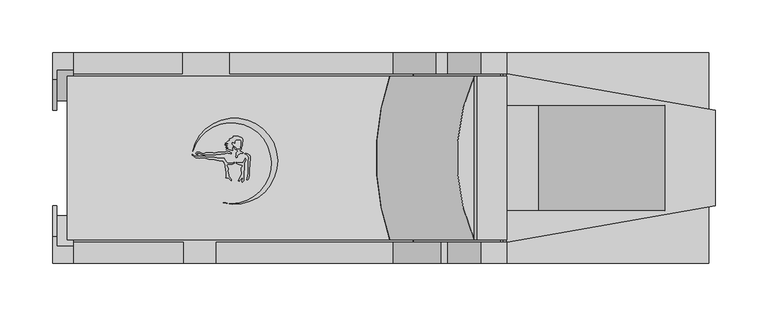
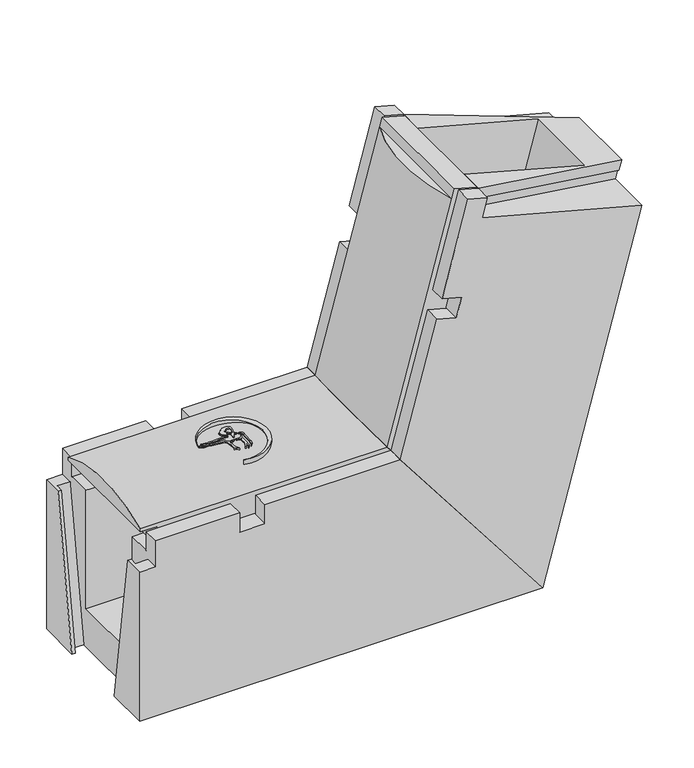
"""IFC4 building model written with IfcOpenShell, lengths in millimetres: cable carrier fitting geometry, Evotray type 1 vertical bend up : Evotray type 1 vertical bend up."""

from ifc_helpers import new_model, si_unit, point, frame, frame_2d, origin, place, context, project, spatial, polyline, circle_curve, ellipse_curve, trimmed, segment, composite_curve, outline, extrude, faceted_brep, source, transform, mapped, element, save
from ifc_brep_helpers import plane_surface, cylinder_surface, advanced_brep


def cable_carrier_fitting_81da3370(model_context):
    return source(origin(), model_context, "Body", "SolidModel", [
        extrude(outline(composite_curve([segment(polyline([(-205.1987673, 5.907559), (-203.7730763, 5.0844359), (-204.4820077, 4.6751342), (-207.0469375, 4.6751342), (-209.5064308, 2.2156409), (-209.5064308, 0.6319729), (-210.5639447, 0.3486129), (-210.8953119, 1.5852919), (-210.5730905, 2.7878385), (-210.5730905, 5.0146536), (-209.1065498, 6.4811943), (-209.5064308, 7.1738084), (-210.5730905, 7.7896447), (-211.4313624, 8.2851682), (-212.4244859, 9.2782918), (-212.4244859, 10.5283487), (-211.6366917, 10.0735155), (-210.5730905, 9.0099142), (-209.5064308, 8.394078), (-207.1936661, 8.394078), (-206.5617675, 9.0259766), (-206.5617675, 10.6343813), (-206.1559104, 11.3373462), (-205.9163405, 12.2314336), (-205.9163405, 16.3268685), (-206.5617675, 16.9722955), (-210.5730905, 17.3232408), (-211.3212546, 16.8912881), (-211.7531031, 16.1433045), (-211.9754965, 15.313321), (-212.2482129, 13.7666695), (-212.8042347, 14.3226912), (-213.3698905, 14.8883471), (-214.3304254, 14.8883471), (-214.8048648, 14.0665939), (-214.8048648, 13.2416885), (-214.4028177, 12.5453225), (-213.675123, 11.8176278), (-214.0717623, 10.3373496), (-214.4092623, 9.0777826), (-214.1064549, 7.3604762), (-214.907248, 7.2192748), (-216.6376932, 7.6829462), (-217.8844025, 8.2642963), (-218.6376597, 8.6155459), (-220.2371082, 8.33352), (-219.7695498, 9.1433549), (-218.1127288, 9.7463885)]), True, "CONTINUOUS"), segment(trimmed(circle_curve(frame_2d((-218.6788564, 9.4744491)), 0.6280537), [point((-218.1127288, 9.7463885))], [point((-218.8344386, 10.0829273))], True, "CARTESIAN"), True, "CONTINUOUS"), segment(polyline([(-218.8344386, 10.0829273), (-220.7814537, 10.0829273), (-220.2232755, 10.6411054), (-219.3724958, 10.9507639), (-218.5540563, 11.2486515)]), True, "CONTINUOUS"), segment(trimmed(circle_curve(frame_2d((-219.2923812, 11.2486515)), 0.7383249), [point((-218.5540563, 11.2486515))], [point((-219.2923812, 11.9869764))], True, "CARTESIAN"), True, "CONTINUOUS"), segment(polyline([(-219.2923812, 11.9869764), (-221.0001288, 11.9869764), (-221.3916504, 12.6651117), (-219.5730583, 12.9857785), (-218.2767203, 13.457607), (-218.897473, 14.0783597), (-220.8606925, 14.0783597), (-220.30811, 14.6309421), (-219.2782773, 15.2255163), (-218.603553, 15.9002407), (-217.8807357, 16.3175594), (-216.9057237, 16.8804829)]), True, "CONTINUOUS"), segment(trimmed(circle_curve(frame_2d((-217.1167091, 17.2459203)), 0.4219708), [point((-216.9057237, 16.8804829))], [point((-217.3276945, 17.6113577))], True, "CARTESIAN"), True, "CONTINUOUS"), segment(polyline([(-217.3276945, 17.6113577), (-216.7102978, 18.2287544), (-215.4076278, 18.7028875), (-214.4125713, 19.2773836), (-213.2810347, 19.4769041), (-213.6348604, 20.4490324), (-208.6348604, 20.4490324), (-207.6206866, 19.9761154), (-206.4988316, 19.6755153), (-205.4843855, 19.0898245), (-204.3757091, 17.9811481), (-204.3757091, 15.4151328), (-204.8646262, 14.5683035), (-204.8646262, 11.8362675), (-205.3536612, 10.7875287), (-205.760463, 10.0829273), (-205.760463, 8.2341629), (-206.5617675, 7.7715296), (-207.3950459, 7.6246001)]), True, "CONTINUOUS"), segment(trimmed(circle_curve(frame_2d((-206.3420944, 7.3424626)), 1.0900956), [point((-207.3950459, 7.6246001))], [point((-206.6242319, 6.2895111))], True, "CARTESIAN"), True, "CONTINUOUS"), segment(polyline([(-206.6242319, 6.2895111), (-205.1987673, 5.907559)]), True, "CONTINUOUS")], self_intersect=False)), frame((0.0, 0.0, 229.0645802), z_axis=(0.0, 0.0, 1.0), x_axis=(1.0, 0.0, 0.0)), (0.0, 0.0, 1.0), 22.5),
        extrude(outline(polyline([(-200.6420581, 3.0525563), (-202.5647021, 4.1625953), (-201.375462, 4.4812513), (-200.0006066, 3.9808448), (-197.8744575, 2.753312), (-197.462808, 1.2170154), (-197.462808, -1.5561738), (-197.8811889, -3.9289297), (-198.2073261, -13.2682758), (-198.2073261, -16.1231727), (-198.766974, -19.297094), (-199.9259981, -20.4561181), (-200.8234867, -20.4561181), (-200.1486125, -18.6019165), (-199.8396569, -16.8497423), (-199.3251997, -13.9321102), (-199.3251997, -2.6926455), (-198.883565, -0.1880111), (-199.4260419, 1.8365401), (-200.6420581, 3.0525563)])), frame((0.0, 0.0, 229.0645802), z_axis=(0.0, 0.0, 1.0), x_axis=(1.0, 0.0, 0.0)), (0.0, 0.0, 1.0), 22.5),
        extrude(outline(composite_curve([segment(polyline([(-208.070307, -4.5554644), (-206.0881056, -4.5554644), (-204.6198413, -4.2965698), (-203.3145593, -2.9912878), (-202.1344504, -0.4605362), (-201.6534984, -1.7819409), (-202.2762062, -3.117342), (-202.9468137, -4.5554644), (-202.9468137, -10.5136603), (-203.3751928, -12.943119), (-203.3751928, -21.4242609), (-204.8238515, -22.8729196), (-205.3965887, -22.3001824), (-204.7178687, -20.5578122), (-204.4597233, -19.0937972)]), True, "CONTINUOUS"), segment(trimmed(circle_curve(frame_2d((-204.8743713, -19.0937972)), 0.414648), [point((-204.4597233, -19.0937972))], [point((-205.2890194, -19.0937972))], True, "CARTESIAN"), True, "CONTINUOUS"), segment(polyline([(-205.2890194, -19.0937972), (-206.0547081, -19.8594859), (-207.3215546, -21.3692548), (-207.9770637, -22.0247639), (-208.7693849, -21.6552984), (-206.605165, -18.4467105), (-206.2992553, -16.7118106), (-205.4571975, -14.9060116), (-205.19999, -13.4473154), (-205.9884987, -12.0815782), (-205.9884987, -9.315031), (-204.6653502, -7.4454743)]), True, "CONTINUOUS"), segment(trimmed(circle_curve(frame_2d((-205.0024552, -7.2068937)), 0.4129897), [point((-204.6653502, -7.4454743))], [point((-205.2410358, -6.8697887))], True, "CARTESIAN"), True, "CONTINUOUS"), segment(polyline([(-205.2410358, -6.8697887), (-207.2448508, -6.516462), (-208.6887473, -5.843162), (-210.508748, -4.9944818), (-210.508748, -4.1255015), (-208.070307, -4.5554644)]), True, "CONTINUOUS")], self_intersect=False)), frame((0.0, 0.0, 229.0645802), z_axis=(0.0, 0.0, 1.0), x_axis=(1.0, 0.0, 0.0)), (0.0, 0.0, 1.0), 22.5),
        extrude(outline(composite_curve([segment(polyline([(-250.4819029, 2.2537302), (-248.7462291, 1.4443722), (-244.5597552, 1.4443722), (-243.4890341, 1.731271), (-242.1624965, 1.731271), (-240.4413877, 1.4443722), (-238.4350656, 0.9067798), (-237.2818775, 0.597784), (-231.5899708, 0.597784), (-228.9734749, 0.1616293), (-227.6459123, -0.19409), (-222.03167, -0.19409)]), True, "CONTINUOUS"), segment(trimmed(circle_curve(frame_2d((-213.1781038, 2.7115165)), 9.3181642), [point((-222.03167, -0.19409))], [point((-218.6774022, -4.8108435))], True, "CARTESIAN"), True, "CONTINUOUS"), segment(polyline([(-218.6774022, -4.8108435), (-215.6256174, -4.8108435), (-213.5910388, -4.632841), (-212.4520349, -4.1017147), (-212.7095548, -5.0627921), (-213.6536491, -5.6078652), (-214.612336, -5.9567987), (-217.847041, -5.8438403), (-219.0357356, -6.2764898), (-219.44473, -7.153581), (-219.3696494, -8.0117562), (-218.8907652, -8.8412079), (-218.1701597, -9.5618134), (-218.1701597, -11.3180259), (-218.53546, -12.3216801), (-218.3911934, -13.970655), (-217.8861011, -15.8556852), (-217.737982, -17.5486944), (-215.3666469, -20.2766033), (-215.5753239, -21.4600691), (-218.1701597, -18.8652332), (-219.1329913, -19.1232231), (-220.5361675, -18.8758053), (-220.2606072, -18.1187094), (-220.2606072, -15.8446539), (-220.0850033, -14.8487551), (-220.2606072, -12.8415943), (-220.6362696, -11.8094702), (-220.6362696, -9.9842873), (-221.0826053, -9.0271173), (-221.0826053, -6.6493678), (-221.3310455, -5.7221762), (-221.7830159, -4.9393406), (-222.2317276, -4.1621491), (-222.84617, -3.5477067), (-223.2800213, -2.6173096), (-226.8809595, -2.4915621), (-229.2251115, -2.1008055), (-231.2577048, -1.5561738), (-234.5993244, -1.2049554), (-236.6789374, -1.2049554), (-238.021172, -0.8453047), (-239.5447671, -0.4370587), (-240.8880204, 0.1893106), (-241.8824091, 0.1893106), (-244.5338495, 0.1893106), (-245.6460936, -0.1087143), (-247.5093755, 0.0871245), (-248.9984504, 0.3353447), (-250.6717579, 1.1156208), (-251.6476843, 2.0915471), (-252.2867674, 2.7306302), (-252.2867674, 3.5175099), (-250.4819029, 2.2537302)]), True, "CONTINUOUS")], self_intersect=False)), frame((0.0, 0.0, 229.0645802), z_axis=(0.0, 0.0, 1.0), x_axis=(1.0, 0.0, 0.0)), (0.0, 0.0, 1.0), 22.5),
        extrude(outline(composite_curve([segment(polyline([(-247.9796703, 3.7977023), (-246.956356, 3.2068915), (-248.6840165, 3.7265624), (-249.014163, 4.6441261), (-248.1758386, 5.4824506), (-245.30302, 5.4824506), (-244.318583, 5.0847122), (-243.2280942, 4.6441261), (-242.4299007, 4.1832889), (-241.1696706, 4.1832889), (-240.3486455, 4.4787), (-239.4633932, 4.9898007), (-233.0496883, 4.9898007), (-232.1941137, 4.6441261), (-231.1237116, 4.6441261), (-230.1629915, 4.9898007), (-228.9838348, 4.9898007), (-228.2654957, 5.4045339), (-222.8528405, 5.4045339), (-222.0925598, 5.6780888), (-220.8504018, 5.6780888), (-220.2746333, 6.2538574), (-218.3170698, 6.2538574), (-217.0290688, 5.7334711), (-216.0171524, 5.1492409), (-215.2127113, 4.8242256)]), True, "CONTINUOUS"), segment(trimmed(circle_curve(frame_2d((-215.6200436, 4.6596527)), 0.4393221), [point((-215.2127113, 4.8242256))], [point((-215.7846166, 4.2523203))], False, "CARTESIAN"), True, "CONTINUOUS"), segment(polyline([(-215.7846166, 4.2523203), (-216.8003453, 4.6627013), (-218.112003, 4.6627013), (-219.382433, 4.8867124), (-220.1944574, 4.5945398), (-221.3374314, 4.1832889), (-224.6816293, 4.1832889), (-225.4727027, 3.7265624), (-229.0400229, 3.7265624), (-229.9228853, 3.2168416), (-239.9228853, 3.2168416), (-242.5335493, 2.9884381), (-246.222077, 4.4787), (-248.3728446, 4.4787), (-247.9796703, 3.7977023)]), True, "CONTINUOUS")], self_intersect=False)), frame((0.0, 0.0, 229.0645802), z_axis=(0.0, 0.0, 1.0), x_axis=(1.0, 0.0, 0.0)), (0.0, 0.0, 1.0), 22.5),
        extrude(outline(composite_curve([segment(trimmed(circle_curve(frame_2d((-215.3994103, -4.8721323)), 38.3616107), [point((-222.8072471, -42.511701))], [point((-252.1109456, 6.2578432))], True, "CARTESIAN"), True, "CONTINUOUS"), segment(trimmed(circle_curve(frame_2d((-212.2700096, -2.9917986)), 40.900563), [point((-252.1109456, 6.2578432))], [point((-222.8072471, -42.511701))], False, "CARTESIAN"), True, "CONTINUOUS")], self_intersect=False)), frame((0.0, 0.0, 229.0645802), z_axis=(0.0, 0.0, 1.0), x_axis=(1.0, 0.0, 0.0)), (0.0, 0.0, 1.0), 22.5),
        advanced_brep(
        [(-42.282553, -77.5, 205.0726986), (46.3947282, -77.5, 536.0208174), (18.4061162, -77.5, 543.5203434), (15.3002876, -77.5, 531.9292335), (-64.5350356, -77.5, 234.0726986), (46.3947282, 77.5, 536.0208174), (-42.282553, 77.5, 205.0726986), (-64.5350356, 77.5, 234.0726986), (15.2770507, 77.5, 531.9354598), (18.4061162, 77.5, 543.5203434)],
        [
            (0, 1),
            (1, 2),
            (2, 3),
            (3, 4),
            (4, 0),
            (5, 6),
            (6, 7),
            (7, 8),
            (8, 9),
            (9, 5),
            (1, 5),
            (9, 2),
            (6, 0),
            (4, 7, ellipse_curve(frame((65.2987083, 0.0, 64.8700693), z_axis=(-0.7933533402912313, 0.0, -0.6087614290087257), x_axis=(-0.6087614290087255, 0.0, 0.7933533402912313)), 234.5826187, 186.1069041)),
            (8, 3),
            (8, 3, circle_curve(frame((178.7142402, 0.0, 488.1425968), z_axis=(0.2588190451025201, 0.0, 0.9659258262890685), x_axis=(0.0, -1.0, 0.0)), 186.1069041)),
        ],
        [
            plane_surface(frame((46.3947282, -77.5, 536.0208174), z_axis=(0.0, -1.0, 0.0), x_axis=(-0.9659258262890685, 0.0, 0.2588190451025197))),
            plane_surface(frame((46.3947282, 77.5, 536.0208174), z_axis=(0.0, 1.0, 0.0), x_axis=(0.9659258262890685, 0.0, -0.2588190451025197))),
            plane_surface(frame((46.3947282, -77.5, 536.0208174), z_axis=(0.2588190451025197, 0.0, 0.9659258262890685), x_axis=(0.0, 1.0, 0.0))),
            plane_surface(frame((-77.5795944, -77.5, 251.0726986), z_axis=(-0.7933533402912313, 0.0, -0.6087614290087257), x_axis=(0.0, 1.0, 0.0))),
            plane_surface(frame((-42.282553, -77.5, 205.0726986), z_axis=(0.9659258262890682, 0.0, -0.2588190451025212), x_axis=(0.0, 1.0, 0.0))),
            plane_surface(frame((18.4061162, -77.5, 543.5203434), z_axis=(-0.9659258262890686, 0.0, 0.2588190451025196), x_axis=(-0.2588190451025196, 0.0, -0.9659258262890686))),
            plane_surface(frame((15.3002876, -77.5, 531.9292335), z_axis=(0.2588190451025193, 0.0, 0.9659258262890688), x_axis=(-0.9659258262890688, 0.0, 0.2588190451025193))),
            cylinder_surface(frame((97.696123, 0.0, 185.7788671), z_axis=(0.2588190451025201, 0.0, 0.9659258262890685), x_axis=(0.0, -1.0, 0.0)), 186.1069041),
        ],
        [
            (0, [[1, 2, 3, 4, 5]]),
            (1, [[6, 7, 8, 9, 10]]),
            (2, [[11, -10, 12, -2]]),
            (3, [[13, -5, 14, -7]]),
            (4, [[-1, -13, -6, -11]]),
            (5, [[15, -3, -12, -9]]),
            (6, [[-15, 16]]),
            (7, [[-4, -16, -8, -14]]),
        ],
    ),
        advanced_brep(
        [(-351.0, -77.5, 205.0), (-42.3020325, -77.5, 205.0), (-64.6102988, -77.5, 234.0726986), (-371.0, -77.5, 234.0726986), (-371.0, -77.5, 230.0), (-351.0, -77.5, 230.0), (-42.3020325, 77.5, 205.0), (-351.0, 77.5, 205.0), (-351.0, 77.5, 230.0), (-371.0, 77.5, 230.0), (-371.0, 77.5, 234.0726986), (-64.6102988, 77.5, 234.0726986)],
        [
            (0, 1),
            (1, 2),
            (2, 3),
            (3, 4),
            (4, 5),
            (5, 0),
            (6, 7),
            (7, 8),
            (8, 9),
            (9, 10),
            (10, 11),
            (11, 6),
            (9, 4),
            (3, 10, circle_curve(frame((-371.0, 0.0, 64.8700693), z_axis=(-1.0, 0.0, 0.0), x_axis=(0.0, -1.0, 0.0)), 186.1069041)),
            (6, 1),
            (0, 7),
            (11, 2, ellipse_curve(frame((65.2234451, 0.0, 64.8700693), z_axis=(0.7933533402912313, 0.0, 0.6087614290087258), x_axis=(0.6087614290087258, 0.0, -0.7933533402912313)), 234.5826187, 186.1069041)),
            (8, 5),
        ],
        [
            plane_surface(frame((-371.0, -77.5, 205.0), z_axis=(0.0, -1.0, 0.0), x_axis=(0.0, 0.0, -1.0))),
            plane_surface(frame((-371.0, 77.5, 205.0), z_axis=(0.0, 1.0, 0.0), x_axis=(0.0, 0.0, 1.0))),
            plane_surface(frame((-371.0, -77.5, 251.0), z_axis=(-1.0, 0.0, 0.0), x_axis=(0.0, 1.0, 0.0))),
            plane_surface(frame((-371.0, -77.5, 205.0), z_axis=(0.0, 0.0, -1.0), x_axis=(0.0, 1.0, 0.0))),
            plane_surface(frame((-42.3020325, -77.5, 205.0), z_axis=(0.7933533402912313, 0.0, 0.6087614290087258), x_axis=(0.0, 1.0, 0.0))),
            plane_surface(frame((-371.0, 77.5, 230.0), z_axis=(0.0, 0.0, -1.0), x_axis=(-1.0, 0.0, 0.0))),
            plane_surface(frame((-351.0, -77.5, 230.0), z_axis=(-1.0, 0.0, 0.0), x_axis=(0.0, 0.0, -1.0))),
            cylinder_surface(frame((-371.0, 0.0, 64.8700693), z_axis=(1.0, 0.0, 0.0), x_axis=(0.0, -1.0, 0.0)), 186.1069041),
        ],
        [
            (0, [[1, 2, 3, 4, 5, 6]]),
            (1, [[7, 8, 9, 10, 11, 12]]),
            (2, [[13, -4, 14, -10]]),
            (3, [[15, -1, 16, -7]]),
            (4, [[-15, -12, 17, -2]]),
            (5, [[18, -5, -13, -9]]),
            (6, [[-18, -8, -16, -6]]),
            (7, [[-3, -17, -11, -14]]),
        ],
    ),
        faceted_brep([(-61.4852072, -100.0, 230.0), (115.0, -100.0, 0.0), (237.9390464, -100.0, 458.8147675), (39.924252, -100.0, 511.8726717), (46.3947282, -100.0, 536.0208174), (22.2465825, -100.0, 542.4912935), (-9.8469791, -100.0, 422.7164911), (14.3011666, -100.0, 416.2460149), (7.8306904, -100.0, 392.0978693), (-16.3174552, -100.0, 398.5683454), (115.0, 100.0, 0.0), (-61.4852072, 100.0, 230.0), (-21.2350171, 100.0, 380.2157547), (2.9131286, 100.0, 373.7452786), (14.5599856, 100.0, 417.2119408), (-9.58816, 100.0, 423.6824169), (22.2465825, 100.0, 542.4912935), (46.3947282, 100.0, 536.0208174), (39.924252, 100.0, 511.8726717), (237.9390464, 100.0, 458.8147675), (46.3947282, -50.0, 536.0208174), (46.3947282, -80.0, 536.0208174), (244.4095226, -45.4, 482.9629131), (244.4095226, 45.4, 482.9629131), (46.3947282, 80.0, 536.0208174), (46.3947282, 50.0, 536.0208174), (196.1132312, 50.0, 495.9038654), (196.1132312, -50.0, 495.9038654), (22.2465825, -80.0, 542.4912935), (22.2465825, 80.0, 542.4912935), (-9.8469791, -80.0, 422.7164911), (-9.58816, 80.0, 423.6824169), (-61.4852072, -80.0, 230.0), (-16.3174552, -80.0, 398.5683454), (-61.4852072, 80.0, 230.0), (-21.2350171, 80.0, 380.2157547), (-42.3020325, -80.0, 205.0), (-42.3020325, -50.0, 205.0), (76.6336506, -50.0, 50.0), (76.6336506, 50.0, 50.0), (-42.3020325, 50.0, 205.0), (-42.3020325, 80.0, 205.0), (237.9390464, 43.0, 458.8147675), (241.044875, 43.0, 470.4058774), (241.044875, 45.4, 470.4058774), (241.044875, -45.4, 470.4058774), (241.044875, -43.0, 470.4058774), (237.9390464, -43.0, 458.8147675), (43.0300806, -80.0, 523.4637816), (39.924252, -80.0, 511.8726717), (14.3011666, -80.0, 416.2460149), (7.8306904, -80.0, 392.0978693), (14.5599856, 80.0, 417.2119408), (39.924252, 80.0, 511.8726717), (43.0300806, 80.0, 523.4637816), (2.9131286, 80.0, 373.7452786), (39.924252, -77.6, 511.8726717), (43.0300806, -77.6, 523.4637816), (43.0300806, 77.6, 523.4637816), (39.924252, 77.6, 511.8726717)], [[[0, 1, 2, 3, 4, 5, 6, 7, 8, 9]], [[10, 11, 12, 13, 14, 15, 16, 17, 18, 19]], [[20, 21, 22, 23, 24, 25, 26, 27]], [[28, 5, 4, 21]], [[16, 29, 24, 17]], [[5, 28, 30, 6]], [[29, 16, 15, 31]], [[32, 0, 9, 33]], [[11, 34, 35, 12]], [[1, 0, 32, 36, 37, 38, 39, 40, 41, 34, 11, 10]], [[1, 10, 19, 42, 43, 44, 23, 22, 45, 46, 47, 2]], [[28, 21, 48, 49, 50, 30]], [[36, 32, 33, 51]], [[24, 29, 31, 52, 53, 54]], [[34, 41, 55, 35]], [[37, 36, 51, 8, 7, 50, 49, 56, 57, 48, 21, 20]], [[41, 40, 25, 24, 54, 58, 59, 53, 52, 14, 13, 55]], [[27, 38, 37, 20]], [[39, 26, 25, 40]], [[38, 27, 26, 39]], [[48, 21, 4, 3, 49]], [[21, 48, 45, 22]], [[24, 54, 53, 18, 17]], [[54, 24, 23, 44]], [[46, 57, 56, 47]], [[47, 56, 49, 3, 2]], [[57, 46, 45, 48]], [[42, 59, 58, 43]], [[59, 42, 19, 18, 53]], [[43, 58, 54, 44]], [[55, 13, 12, 35]], [[14, 52, 31, 15]], [[50, 7, 6, 30]], [[8, 51, 33, 9]]]),
        faceted_brep([(-385.0, -100.0, 0.0), (115.0, -100.0, 0.0), (-61.4852072, -100.0, 230.0), (-229.6518259, -100.0, 230.0), (-229.6518259, -100.0, 205.0), (-261.0, -100.0, 205.0), (-261.0, -100.0, 230.0), (-365.0130369, -100.0, 230.0), (-365.0130369, -100.0, 196.0), (-385.0, -100.0, 196.0), (-61.4852072, 100.0, 230.0), (115.0, 100.0, 0.0), (-385.0, 100.0, 0.0), (-385.0, 100.0, 196.0), (-365.0130369, 100.0, 196.0), (-365.0130369, 100.0, 230.0), (-262.0, 100.0, 230.0), (-262.0, 100.0, 205.0), (-217.0, 100.0, 205.0), (-217.0, 100.0, 230.0), (-61.4852072, -80.0, 230.0), (-229.6518259, -80.0, 230.0), (-61.4852072, 80.0, 230.0), (-217.0, 80.0, 230.0), (-365.0130369, -80.0, 230.0), (-261.0, -80.0, 230.0), (-365.0130369, 80.0, 230.0), (-262.0, 80.0, 230.0), (-385.0, -45.45, 0.0), (-385.0, -74.8926087, 196.0), (-385.0, 45.45, 0.0), (-385.0, 74.8926087, 196.0), (-381.0, -45.45, 0.0), (-381.0, -54.6, 0.0), (-365.0, -54.6, 0.0), (-365.0, 54.6, 0.0), (-381.0, 54.6, 0.0), (-381.0, 45.45, 0.0), (-42.3020325, 80.0, 205.0), (-42.3020325, 50.0, 205.0), (76.6336506, 50.0, 50.0), (76.6336506, -50.0, 50.0), (-42.3020325, -50.0, 205.0), (-42.3020325, -80.0, 205.0), (-381.0, 74.8926087, 196.0), (-381.0, -74.8926087, 196.0), (-365.0, 84.0426087, 196.0), (-381.0, 84.0426087, 196.0), (-381.0, -84.0426087, 196.0), (-365.0, -84.0426087, 196.0), (-365.0, -80.0, 205.0), (-365.0, -77.5, 205.0), (-365.0, -50.0, 205.0), (-365.0, -50.0, 50.0), (-365.0, 50.0, 50.0), (-365.0, 50.0, 205.0), (-365.0, 77.5, 205.0), (-365.0, 80.0, 205.0), (-229.6518259, -80.0, 205.0), (-261.0, -80.0, 205.0), (-217.0, 80.0, 205.0), (-262.0, 80.0, 205.0), (-351.0, 50.0, 205.0), (-351.0, -50.0, 205.0)], [[[0, 1, 2, 3, 4, 5, 6, 7, 8, 9]], [[10, 11, 12, 13, 14, 15, 16, 17, 18, 19]], [[2, 20, 21, 3]], [[22, 10, 19, 23]], [[24, 7, 6, 25]], [[15, 26, 27, 16]], [[28, 0, 9, 29]], [[12, 30, 31, 13]], [[1, 0, 28, 32, 33, 34, 35, 36, 37, 30, 12, 11]], [[2, 1, 11, 10, 22, 38, 39, 40, 41, 42, 43, 20]], [[30, 37, 44, 31]], [[32, 28, 29, 45]], [[36, 35, 46, 47]], [[33, 32, 45, 48]], [[37, 36, 47, 44]], [[34, 33, 48, 49]], [[35, 34, 49, 8, 7, 24, 50, 51, 52, 53, 54, 55, 56, 57, 26, 15, 14, 46]], [[8, 49, 48, 45, 29, 9]], [[46, 14, 13, 31, 44, 47]], [[20, 43, 58, 21]], [[50, 24, 25, 59]], [[38, 22, 23, 60]], [[26, 57, 61, 27]], [[39, 38, 60, 18, 17, 61, 57, 56, 55, 62]], [[43, 42, 63, 52, 51, 50, 59, 5, 4, 58]], [[41, 53, 52, 63, 42]], [[54, 40, 39, 62, 55]], [[53, 41, 40, 54]], [[61, 17, 16, 27]], [[18, 60, 23, 19]], [[5, 59, 25, 6]], [[58, 4, 3, 21]]]),
    ])


if __name__ == "__main__":
    model = new_model("IFC4")
    model_context = context("Model", 3, world=origin())
    ifc_project = project(units=[si_unit("LENGTHUNIT", "METRE", prefix="MILLI")], contexts=[model_context])
    site = spatial("IfcSite", under=ifc_project)
    building = spatial("IfcBuilding", under=site)
    placement = place(None, origin())
    cable_carrier_fitting_shape = cable_carrier_fitting_81da3370(model_context)
    element("IfcCableCarrierFitting", 1, ObjectType="Evotray type 1 vertical bend up : Evotray type 1 vertical bend up", at=placement, inside=building, context=model_context, shape_type="MappedRepresentation", body=[
        mapped(cable_carrier_fitting_shape, transform((0.0, 0.0, 0.0), x_axis=(1.0, 0.0, 0.0), y_axis=(0.0, 1.0, 0.0), z_axis=(0.0, 0.0, 1.0))),
    ])
    save(model, "model.ifc")
